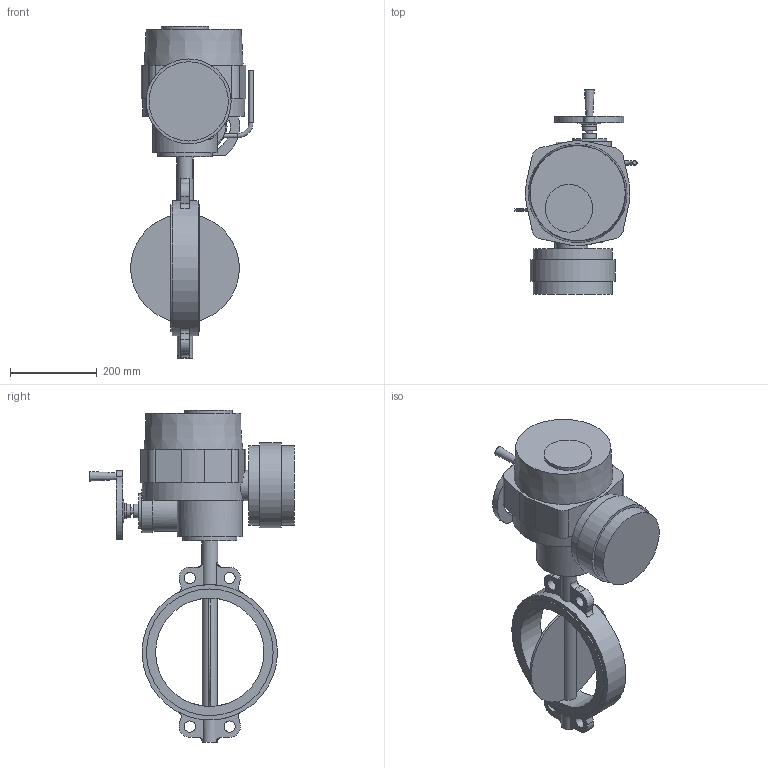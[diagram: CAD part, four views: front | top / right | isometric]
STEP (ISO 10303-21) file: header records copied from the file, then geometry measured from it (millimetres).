
FILE_DESCRIPTION(('STEP AP203'), '1');
FILE_NAME('青蜮铕 017W.Y_DN250_PN16_QT.A 050', '', ('UNSPECIFIED'), ('UNSPECIFIED'), 'ASCON STEP Converter 1.6', 'ASCON Math Kernel', '');
FILE_SCHEMA(('CONFIG_CONTROL_DESIGN'));
Length unit declared in the file: millimetre
Bounding box: 281.77 x 472 x 766 mm (x, y, z)
Volume: 16988252.6 mm3; surface area: 810530.6 mm2
Topology: 1 solids, 1 shells, 186 faces, 438 edges, 287 vertices
Faces by surface type: plane 102, cylinder 76, torus 5, cone 3
Full cylindrical faces by diameter (mm): 6.7 x8, 10 x2, 12 x4, 16 x1, 26 x4, 32 x2, 35 x3, 37 x1, 70 x1, 80 x1, 100 x1, 110 x1, 125 x1, 150 x1, 183 x2, 196 x1, 250 x1, 292.4 x2, 312.4 x1
Entity records: 8432 total; most frequent: CARTESIAN_POINT 2615, DIRECTION 937, ORIENTED_EDGE 792, EDGE_CURVE 396, AXIS2_PLACEMENT_3D 384, VERTEX_POINT 287, EDGE_LOOP 279, FACE_BOUND 205
